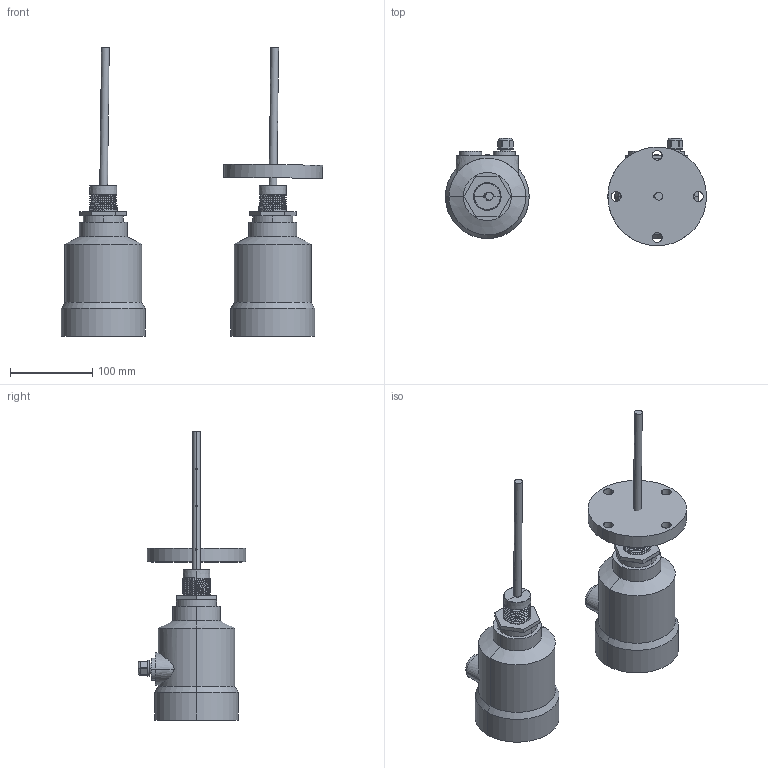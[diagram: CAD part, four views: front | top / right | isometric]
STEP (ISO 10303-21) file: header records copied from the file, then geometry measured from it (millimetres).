
FILE_DESCRIPTION((''),'2;1');
FILE_NAME('704_ASM','2025-12-30T15:31:57',('28740194'),(''),'CREO PARAMETRIC BY PTC INC, 2024063','CREO PARAMETRIC BY PTC INC, 2024063','');
FILE_SCHEMA(('CONFIG_CONTROL_DESIGN'));
Length unit declared in the file: millimetre
Products named in the file (13): 00; EV214_27005336_DUMMY; EV214_27005336_02; EV214_27005336_03; EV214_27005336_04; EV214_27005336_06; EV214_27005336_07; EV214_27005336_ASM; 1_AF3; 1_AF4; 704ZZZ_ASM; 704_ASM
Assembly tree (14 placements, depth 4):
  704_ASM
    00
    EV214_27005336_ASM
      EV214_27005336_DUMMY
      EV214_27005336_02
      EV214_27005336_03
      EV214_27005336_04
      EV214_27005336_06
      EV214_27005336_07
    1_AF3
    704ZZZ_ASM
      00
      EV214_27005336_ASM
        EV214_27005336_DUMMY
        EV214_27005336_02
        EV214_27005336_03
        EV214_27005336_04
        EV214_27005336_06
        EV214_27005336_07
      1_AF4
    00
Bounding box: 317.76 x 131.01 x 351.92 mm (x, y, z)
Volume: 2158242.4 mm3; surface area: 183278.2 mm2
Topology: 15 solids, 23 shells, 1150 faces, 3170 edges, 2102 vertices
Faces by surface type: plane 860, cylinder 186, cone 72, torus 16, bspline 12, extrusion 4
Entity records: 24718 total; most frequent: CARTESIAN_POINT 8380, ORIENTED_EDGE 3440, DIRECTION 3216, EDGE_CURVE 1728, VECTOR 1224, LINE 1222, VERTEX_POINT 1142, AXIS2_PLACEMENT_3D 996
